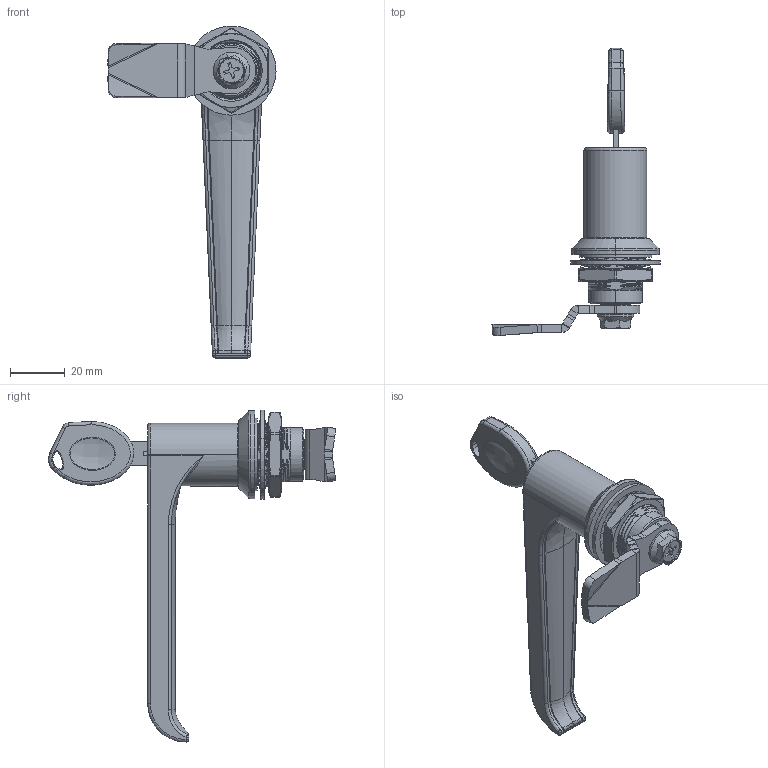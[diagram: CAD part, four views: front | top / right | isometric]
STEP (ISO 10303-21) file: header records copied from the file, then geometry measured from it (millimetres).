
FILE_DESCRIPTION (( 'STEP AP214' ), '1' );
FILE_NAME ('CUYUE B-1310-1.STEP', '2026-06-18T07:27:19', ( '' ), ( '' ), 'SwSTEP 2.0', 'SolidWorks 2020', '' );
FILE_SCHEMA (( 'AUTOMOTIVE_DESIGN' ));
Length unit declared in the file: millimetre
Products named in the file (25): B-1310-1蚾饜极_sldasm_1.sldasm-Part-12; CUYUE B-1310-1; B-1310-1蚾饜极_sldasm_1.sldasm-Part-22; B-1310-1蚾饜极_sldasm_1.sldasm-Part-9; B-1310-1蚾饜极_sldasm_1.sldasm-Part-20; B-1310-1蚾饜极_sldasm_1.sldasm-Part-5; B-1310-1蚾饜极_sldasm_1.sldasm-Part-18; B-1310-1蚾饜极_sldasm_1.sldasm-Part-17; B-1310-1蚾饜极_sldasm_1.sldasm-Part-7; B-1310-1蚾饜极_sldasm_1.sldasm-Part-21; B-1310-1蚾饜极_sldasm_1.sldasm-Part-24; B-1310-1蚾饜极_sldasm_1.sldasm-Part-8; B-1310-1蚾饜极_sldasm_1.sldasm-Part-14; B-1310-1蚾饜极_sldasm_1.sldasm-Part-3; B-1310-1蚾饜极_sldasm_1.sldasm-Part-15; B-1310-1蚾饜极_sldasm_1.sldasm-Part-19; B-1310-1蚾饜极_sldasm_1.sldasm-Part-1; B-1310-1蚾饜极_sldasm_1.sldasm-Part-2; B-1310-1蚾饜极_sldasm_1.sldasm-Part-10; B-1310-1蚾饜极_sldasm_1.sldasm-Part-16; B-1310-1蚾饜极_sldasm_1.sldasm-Part-4; B-1310-1蚾饜极_sldasm_1.sldasm-Part-11; B-1310-1蚾饜极_sldasm_1.sldasm-Part-23; B-1310-1蚾饜极_sldasm_1.sldasm-Part-6; B-1310-1蚾饜极_sldasm_1.sldasm-Part-13
Assembly tree (24 placements, depth 2):
  CUYUE B-1310-1
    B-1310-1蚾饜极_sldasm_1.sldasm-Part-1
    B-1310-1蚾饜极_sldasm_1.sldasm-Part-2
    B-1310-1蚾饜极_sldasm_1.sldasm-Part-3
    B-1310-1蚾饜极_sldasm_1.sldasm-Part-4
    B-1310-1蚾饜极_sldasm_1.sldasm-Part-5
    B-1310-1蚾饜极_sldasm_1.sldasm-Part-6
    B-1310-1蚾饜极_sldasm_1.sldasm-Part-7
    B-1310-1蚾饜极_sldasm_1.sldasm-Part-8
    B-1310-1蚾饜极_sldasm_1.sldasm-Part-9
    B-1310-1蚾饜极_sldasm_1.sldasm-Part-10
    B-1310-1蚾饜极_sldasm_1.sldasm-Part-11
    B-1310-1蚾饜极_sldasm_1.sldasm-Part-12
    B-1310-1蚾饜极_sldasm_1.sldasm-Part-13
    B-1310-1蚾饜极_sldasm_1.sldasm-Part-14
    B-1310-1蚾饜极_sldasm_1.sldasm-Part-15
    B-1310-1蚾饜极_sldasm_1.sldasm-Part-16
    B-1310-1蚾饜极_sldasm_1.sldasm-Part-17
    B-1310-1蚾饜极_sldasm_1.sldasm-Part-18
    B-1310-1蚾饜极_sldasm_1.sldasm-Part-19
    B-1310-1蚾饜极_sldasm_1.sldasm-Part-20
    B-1310-1蚾饜极_sldasm_1.sldasm-Part-21
    B-1310-1蚾饜极_sldasm_1.sldasm-Part-22
    B-1310-1蚾饜极_sldasm_1.sldasm-Part-23
    B-1310-1蚾饜极_sldasm_1.sldasm-Part-24
Bounding box: 61.4 x 104.89 x 121.28 mm (x, y, z)
Volume: 41220.8 mm3; surface area: 37002.3 mm2
Topology: 24 solids, 24 shells, 2040 faces, 5402 edges, 3420 vertices
Faces by surface type: cylinder 671, plane 652, bspline 558, cone 76, torus 75, sphere 8
Entity records: 137620 total; most frequent: CARTESIAN_POINT 90713, ORIENTED_EDGE 10748, DIRECTION 7999, EDGE_CURVE 5374, VERTEX_POINT 3419, AXIS2_PLACEMENT_3D 2797, VECTOR 2405, LINE 2405
